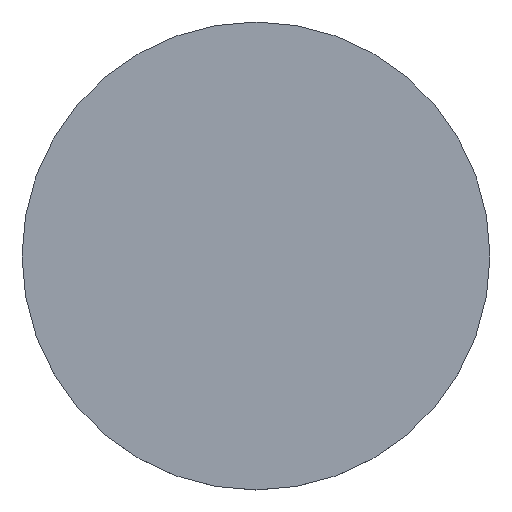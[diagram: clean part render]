
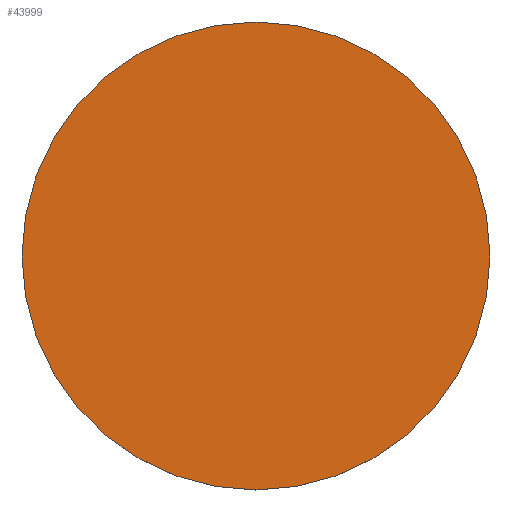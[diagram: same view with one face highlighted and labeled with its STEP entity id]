
A CAD part, top view. The second image highlights one B-rep face of the part: STEP entity #43999.
In plain terms, the highlighted planar face has unit normal (0, 0, 1).
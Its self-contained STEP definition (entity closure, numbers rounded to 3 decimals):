
#4317 = DIRECTION ( 'NONE',  ( 0., 0., 1. ) ) ;
#11668 = CARTESIAN_POINT ( 'NONE',  ( 127.554, 110.015, 75. ) ) ;
#16952 = DIRECTION ( 'NONE',  ( 1., 0., 0. ) ) ;
#17634 = AXIS2_PLACEMENT_3D ( 'NONE', #11668, #4317, #36182 ) ;
#21288 = AXIS2_PLACEMENT_3D ( 'NONE', #55317, #60207, #16952 ) ;
#22085 = EDGE_CURVE ( 'NONE', #23988, #56931, #37216, .T. ) ;
#23988 = VERTEX_POINT ( 'NONE', #66910 ) ;
#29806 = DIRECTION ( 'NONE',  ( 1., 0., 0. ) ) ;
#31019 = CARTESIAN_POINT ( 'NONE',  ( 127.554, 110.015, 75. ) ) ;
#33656 = ORIENTED_EDGE ( 'NONE', *, *, #22085, .T. ) ;
#36182 = DIRECTION ( 'NONE',  ( 1., 0., 0. ) ) ;
#36860 = CIRCLE ( 'NONE', #77151, 41.5 ) ;
#37101 = CARTESIAN_POINT ( 'NONE',  ( 86.054, 110.015, 75. ) ) ;
#37216 = CIRCLE ( 'NONE', #17634, 41.5 ) ;
#43999 = ADVANCED_FACE ( 'NONE', ( #79336 ), #80156, .T. ) ;
#55317 = CARTESIAN_POINT ( 'NONE',  ( 127.554, 110.015, 75. ) ) ;
#56931 = VERTEX_POINT ( 'NONE', #37101 ) ;
#59929 = EDGE_CURVE ( 'NONE', #56931, #23988, #36860, .T. ) ;
#60207 = DIRECTION ( 'NONE',  ( 0., 0., 1. ) ) ;
#65609 = EDGE_LOOP ( 'NONE', ( #80140, #33656 ) ) ;
#66910 = CARTESIAN_POINT ( 'NONE',  ( 169.054, 110.015, 75. ) ) ;
#67720 = DIRECTION ( 'NONE',  ( 0., 0., 1. ) ) ;
#77151 = AXIS2_PLACEMENT_3D ( 'NONE', #31019, #67720, #29806 ) ;
#79336 = FACE_OUTER_BOUND ( 'NONE', #65609, .T. ) ;
#80140 = ORIENTED_EDGE ( 'NONE', *, *, #59929, .T. ) ;
#80156 = PLANE ( 'NONE',  #21288 ) ;
